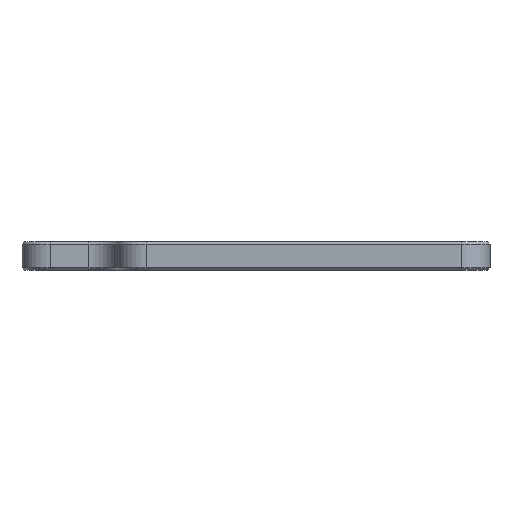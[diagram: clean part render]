
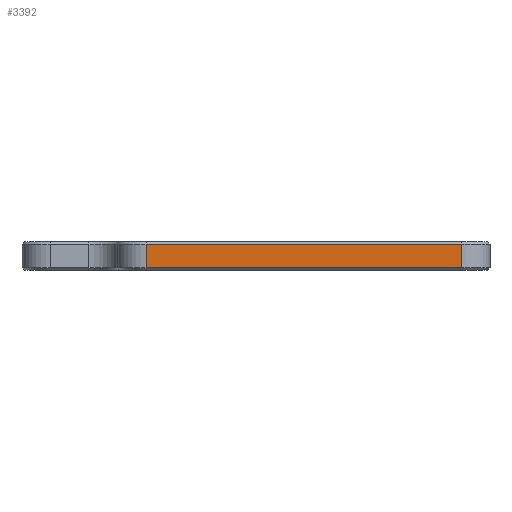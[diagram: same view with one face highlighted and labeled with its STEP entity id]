
A CAD part, front view. The second image highlights one B-rep face of the part: STEP entity #3392.
In plain terms, the highlighted planar face has unit normal (0, -1, 0).
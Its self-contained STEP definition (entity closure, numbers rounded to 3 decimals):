
#234 = EDGE_LOOP ( 'NONE', ( #1722, #4060, #1628, #3177 ) ) ;
#489 = AXIS2_PLACEMENT_3D ( 'NONE', #2225, #5817, #1773 ) ;
#837 = FACE_OUTER_BOUND ( 'NONE', #234, .T. ) ;
#1252 = CARTESIAN_POINT ( 'NONE',  ( 16.5, -36.5, 3. ) ) ;
#1271 = EDGE_CURVE ( 'NONE', #3254, #1641, #2768, .T. ) ;
#1625 = CARTESIAN_POINT ( 'NONE',  ( -16.5, -36.5, 3. ) ) ;
#1628 = ORIENTED_EDGE ( 'NONE', *, *, #2477, .T. ) ;
#1641 = VERTEX_POINT ( 'NONE', #4142 ) ;
#1659 = CARTESIAN_POINT ( 'NONE',  ( -16.5, -36.5, 0.25 ) ) ;
#1722 = ORIENTED_EDGE ( 'NONE', *, *, #4853, .T. ) ;
#1773 = DIRECTION ( 'NONE',  ( -1., 0., 0. ) ) ;
#1825 = VECTOR ( 'NONE', #5791, 1000. ) ;
#1975 = EDGE_CURVE ( 'NONE', #1989, #3204, #2199, .T. ) ;
#1989 = VERTEX_POINT ( 'NONE', #2223 ) ;
#2078 = VECTOR ( 'NONE', #5494, 1000. ) ;
#2199 = LINE ( 'NONE', #4961, #1825 ) ;
#2223 = CARTESIAN_POINT ( 'NONE',  ( 16.5, -36.5, 2.75 ) ) ;
#2225 = CARTESIAN_POINT ( 'NONE',  ( -19.5, -36.5, 3. ) ) ;
#2234 = VECTOR ( 'NONE', #3066, 1000. ) ;
#2477 = EDGE_CURVE ( 'NONE', #1641, #1989, #4980, .T. ) ;
#2628 = VECTOR ( 'NONE', #5647, 1000. ) ;
#2768 = LINE ( 'NONE', #4123, #2078 ) ;
#3066 = DIRECTION ( 'NONE',  ( 0., 0., 1. ) ) ;
#3177 = ORIENTED_EDGE ( 'NONE', *, *, #1975, .T. ) ;
#3204 = VERTEX_POINT ( 'NONE', #3408 ) ;
#3254 = VERTEX_POINT ( 'NONE', #1659 ) ;
#3392 = ADVANCED_FACE ( 'NONE', ( #837 ), #4476, .F. ) ;
#3408 = CARTESIAN_POINT ( 'NONE',  ( -16.5, -36.5, 2.75 ) ) ;
#3812 = LINE ( 'NONE', #1625, #2628 ) ;
#4060 = ORIENTED_EDGE ( 'NONE', *, *, #1271, .T. ) ;
#4123 = CARTESIAN_POINT ( 'NONE',  ( 16.5, -36.5, 0.25 ) ) ;
#4142 = CARTESIAN_POINT ( 'NONE',  ( 16.5, -36.5, 0.25 ) ) ;
#4476 = PLANE ( 'NONE',  #489 ) ;
#4853 = EDGE_CURVE ( 'NONE', #3204, #3254, #3812, .T. ) ;
#4961 = CARTESIAN_POINT ( 'NONE',  ( -19.5, -36.5, 2.75 ) ) ;
#4980 = LINE ( 'NONE', #1252, #2234 ) ;
#5494 = DIRECTION ( 'NONE',  ( 1., 0., 0. ) ) ;
#5647 = DIRECTION ( 'NONE',  ( 0., 0., -1. ) ) ;
#5791 = DIRECTION ( 'NONE',  ( -1., 0., 0. ) ) ;
#5817 = DIRECTION ( 'NONE',  ( 0., 1., 0. ) ) ;
